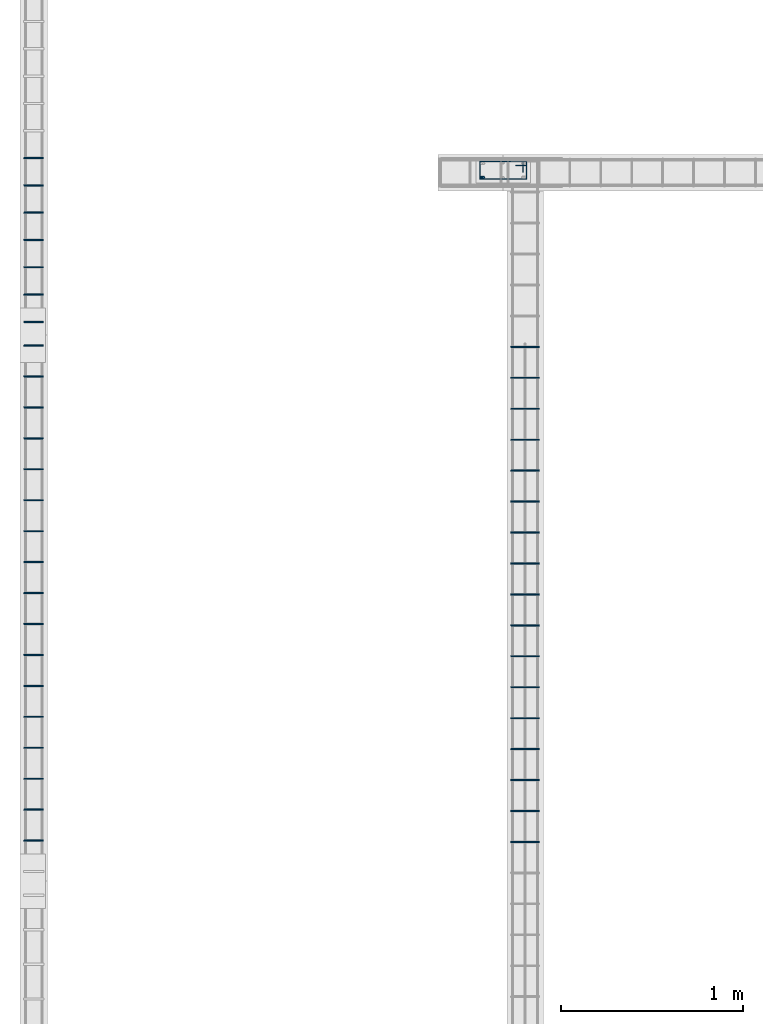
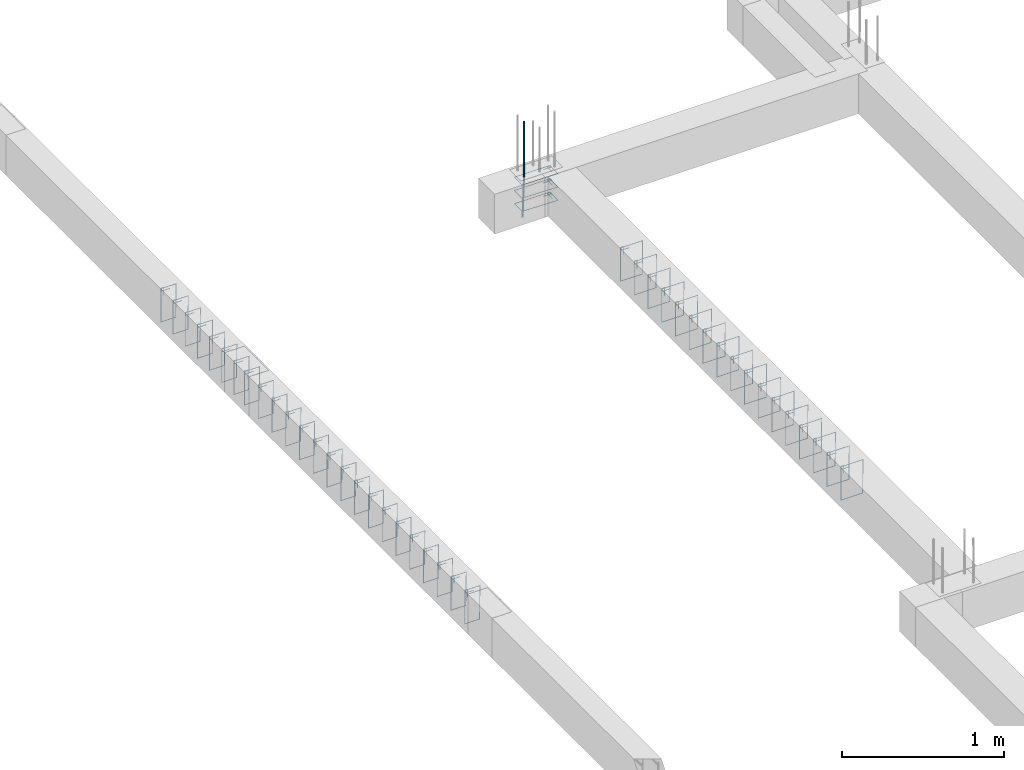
# One storey, part 115 of 150: 45 reinforcing bars.
"""IFC4 building model written with IfcOpenShell, lengths in centimetres."""

import ifcopenshell
import ifcopenshell.guid

model = None  # the IFC model being written
_history = None  # IfcOwnerHistory: only IFC2X3 demands one
_inside = {}  # id of a spatial element -> (the spatial element, [elements in it])
_under = {}  # id of a project, library or spatial element -> (it, [spatial elements below it])
_declared = {}  # id of a project -> (the project, [libraries it declares])
_typed = {}  # id of a type object -> (the type object, [elements of that type])
_made_of = {}  # id of a material, layer set ... -> (it, [elements and type objects made of it])


def new_model(schema):
    """Start an empty IFC model of exactly this schema.

    Asked for "IFC4X3", IfcOpenShell would pick the latest addendum, in which some entities
    have other attributes; the version numbers below select the first issue.
    IFC2X3 requires an IfcOwnerHistory on every rooted entity: one is made here for all.
    """
    global model, _history
    if schema == "IFC4X3":
        model = ifcopenshell.file(schema_version=(4, 3, 0, 0))
    else:
        model = ifcopenshell.file(schema=schema)
    _inside.clear()
    _under.clear()
    _declared.clear()
    _typed.clear()
    _made_of.clear()
    _history = None
    if model.schema == "IFC2X3":
        org = make("IfcOrganization", Name="unknown")
        user = make(
            "IfcPersonAndOrganization",
            ThePerson=make("IfcPerson", FamilyName="unknown"),
            TheOrganization=org,
        )
        app = make(
            "IfcApplication",
            ApplicationDeveloper=org,
            Version="unknown",
            ApplicationFullName="unknown",
            ApplicationIdentifier="unknown",
        )
        _history = make(
            "IfcOwnerHistory",
            OwningUser=user,
            OwningApplication=app,
            ChangeAction="ADDED",
            CreationDate=0,
        )
    return model


def make(cls, **values):
    """One entity of the class cls with the attributes given. An attribute that is None is left unset."""
    return model.create_entity(
        cls, **{name: value for name, value in values.items() if value is not None}
    )


def entity(cls, *values):
    """Any entity or typed value of the class cls, its attributes in the order of the schema. None: left unset."""
    e = model.create_entity(cls)
    for i, value in enumerate(values):
        if value is not None:
            e[i] = value
    return e


def rooted(cls, **values):
    """An entity with a GlobalId (a new one), such as an element, a storey or a relation."""
    return make(cls, GlobalId=ifcopenshell.guid.new(), OwnerHistory=_history, **values)


def si_unit(unit_type, name, prefix=None):
    """IfcSIUnit, for example si_unit("LENGTHUNIT", "METRE", prefix="MILLI")."""
    return make("IfcSIUnit", UnitType=unit_type, Prefix=prefix, Name=name)


def derived_unit(unit_type, elements):
    """IfcDerivedUnit: a product of units, each with its exponent."""
    return make(
        "IfcDerivedUnit",
        Elements=[
            make("IfcDerivedUnitElement", Unit=unit, Exponent=power)
            for unit, power in elements
        ],
        UnitType=unit_type,
    )


def assignment(units):
    """IfcUnitAssignment: the units of a project."""
    return None if units is None else make("IfcUnitAssignment", Units=units)


def point(xyz):
    """IfcCartesianPoint."""
    return None if xyz is None else make("IfcCartesianPoint", Coordinates=xyz)


def direction(xyz):
    """IfcDirection."""
    return None if xyz is None else make("IfcDirection", DirectionRatios=xyz)


def frame(location, z_axis=None, x_axis=None):
    """IfcAxis2Placement3D, a coordinate frame: its origin and axes. An axis left out is left unset."""
    return make(
        "IfcAxis2Placement3D",
        Location=point(location),
        Axis=direction(z_axis),
        RefDirection=direction(x_axis),
    )


def origin_with_axes():
    """The frame at (0, 0, 0) with the z axis (0, 0, 1) and the x axis (1, 0, 0) written out."""
    return frame((0.0, 0.0, 0.0), z_axis=(0.0, 0.0, 1.0), x_axis=(1.0, 0.0, 0.0))


def place(relative_to, where):
    """IfcLocalPlacement: puts the frame where relative to a parent placement (None: the world)."""
    return make(
        "IfcLocalPlacement", PlacementRelTo=relative_to, RelativePlacement=where
    )


def context(
    kind, dimensions, precision=None, world=None, true_north=None, identifier=None
):
    """IfcGeometricRepresentationContext, for example the 3D "Model" context."""
    return make(
        "IfcGeometricRepresentationContext",
        ContextIdentifier=identifier,
        ContextType=kind,
        CoordinateSpaceDimension=dimensions,
        Precision=precision,
        WorldCoordinateSystem=world,
        TrueNorth=true_north,
    )


def project(units=None, contexts=None):
    """IfcProject with its units and contexts."""
    return rooted(
        "IfcProject",
        Name="project",
        RepresentationContexts=contexts,
        UnitsInContext=assignment(units),
    )


def spatial(cls, under=None, at=None, **own):
    """A site, building, storey or space (cls), placed at a placement, below another one or the project."""
    s = rooted(cls, ObjectPlacement=at, **own)
    if under is not None:
        _under.setdefault(under.id(), (under, []))[1].append(s)
    return s


def shape(context_of_items, identifier, shape_type, items):
    """IfcShapeRepresentation: the items that make up one representation, for example the "Body"."""
    return make(
        "IfcShapeRepresentation",
        ContextOfItems=context_of_items,
        RepresentationIdentifier=identifier,
        RepresentationType=shape_type,
        Items=items,
    )


def source(mapping_origin, context_of_items, identifier, shape_type, items):
    """IfcRepresentationMap: a shape defined once, which mapped items show again and again."""
    return make(
        "IfcRepresentationMap",
        MappingOrigin=mapping_origin,
        MappedRepresentation=shape(context_of_items, identifier, shape_type, items),
    )


def transform(
    local_origin,
    x_axis=None,
    y_axis=None,
    z_axis=None,
    scale=None,
    scale2=None,
    scale3=None,
    uniform=True,
):
    """IfcCartesianTransformationOperator3D, or its non-uniform kind. x_axis, y_axis, z_axis: its Axis1, 2, 3."""
    if uniform:
        return make(
            "IfcCartesianTransformationOperator3D",
            Axis1=direction(x_axis),
            Axis2=direction(y_axis),
            LocalOrigin=point(local_origin),
            Scale=scale,
            Axis3=direction(z_axis),
        )
    return make(
        "IfcCartesianTransformationOperator3DnonUniform",
        Axis1=direction(x_axis),
        Axis2=direction(y_axis),
        LocalOrigin=point(local_origin),
        Scale=scale,
        Axis3=direction(z_axis),
        Scale2=scale2,
        Scale3=scale3,
    )


def mapped(mapping_source, mapping_target):
    """IfcMappedItem: shows the shape of a source again, moved by a transform."""
    return make(
        "IfcMappedItem", MappingSource=mapping_source, MappingTarget=mapping_target
    )


def made_of(thing, what):
    """Note that an element or type object is made of a material, layer set ...; save() writes the relation."""
    if what is not None:
        _made_of.setdefault(what.id(), (what, []))[1].append(thing)
    return thing


def element(
    cls,
    number,
    at=None,
    inside=None,
    cuts=None,
    type_object=None,
    material=None,
    context=None,
    identifier="Body",
    shape_type=None,
    held_by="IfcProductDefinitionShape",
    body=None,
    shapes=None,
    **own,
):
    """One element of the class cls, such as IfcWall. Its Tag is "e" and its number.

    at: its placement. inside: the storey or other place that contains it. cuts: it is an
    opening in that element (IfcRelVoidsElement). A single representation is given by context,
    identifier, shape_type and body (its items); several are given by shapes. held_by: the class
    of the entity that holds the representations. save() writes the other relations.
    """
    e = rooted(cls, Tag="e%d" % number, ObjectPlacement=at, **own)
    if body is not None:
        shapes = [shape(context, identifier, shape_type, body)]
    if shapes is not None:
        e.Representation = make(held_by, Representations=shapes)
    if inside is not None:
        _inside.setdefault(inside.id(), (inside, []))[1].append(e)
    if cuts is not None:
        rooted(
            "IfcRelVoidsElement", RelatingBuildingElement=cuts, RelatedOpeningElement=e
        )
    if type_object is not None:
        _typed.setdefault(type_object.id(), (type_object, []))[1].append(e)
    return made_of(e, material)


def aggregate(whole, parts):
    """IfcRelAggregates: a whole, such as a stair, and the parts it consists of."""
    return rooted("IfcRelAggregates", RelatingObject=whole, RelatedObjects=parts)


def save(model, path):
    """Write the relations noted so far, then the file.

    IfcRelAggregates (storeys below a building ...), IfcRelContainedInSpatialStructure (elements
    in a storey), IfcRelDefinesByType, IfcRelAssociatesMaterial and IfcRelDeclares: one each for
    every whole, place, type object, material and project.
    """
    for whole, parts in _under.values():
        aggregate(whole, parts)
    for where, things in _inside.values():
        rooted(
            "IfcRelContainedInSpatialStructure",
            RelatedElements=things,
            RelatingStructure=where,
        )
    for kind, things in _typed.values():
        rooted("IfcRelDefinesByType", RelatedObjects=things, RelatingType=kind)
    for what, things in _made_of.values():
        rooted("IfcRelAssociatesMaterial", RelatedObjects=things, RelatingMaterial=what)
    for by, libraries in _declared.values():
        rooted("IfcRelDeclares", RelatingContext=by, RelatedDefinitions=libraries)
    model.write(path)


model = new_model("IFC4")

# Units and contexts
model_context = context("Model", 3, precision=1e-05, world=origin_with_axes(), identifier="Body")
ifc_project = project(units=[si_unit("LENGTHUNIT", "METRE", prefix="CENTI"), si_unit("VOLUMEUNIT", "CUBIC_METRE"), si_unit("AREAUNIT", "SQUARE_METRE"), si_unit("POWERUNIT", "WATT"), si_unit("LUMINOUSFLUXUNIT", "LUMEN"), si_unit("ELECTRICCURRENTUNIT", "AMPERE"), si_unit("PRESSUREUNIT", "PASCAL", prefix="KILO"), si_unit("MASSUNIT", "GRAM", prefix="KILO"), si_unit("PLANEANGLEUNIT", "RADIAN"), derived_unit("VOLUMETRICFLOWRATEUNIT", [(si_unit("LENGTHUNIT", "METRE"), 3), (si_unit("TIMEUNIT", "SECOND"), -1)])], contexts=[model_context])

# Site, building, storey
site_placement = place(None, frame((-4000.0, 0.0, 0.0), z_axis=(0.0, 0.0, 1.0), x_axis=(1.0, 0.0, 0.0)))
site = spatial("IfcSite", under=ifc_project, at=site_placement, Name="PADRÃO")
building_placement = place(site_placement, frame((0.0, 0.0, -14.0)))
building = spatial("IfcBuilding", under=site, at=building_placement, Name="CRECHE PRÉ-ESCOLA TIPO 2")
placement = place(building_placement, origin_with_axes())
storey_placement = place(placement, frame((0.0, 0.0, 30.0), z_axis=(0.0, 0.0, 1.0), x_axis=(1.0, 0.0, 0.0)))
storey = spatial("IfcBuildingStorey", under=building, at=storey_placement, Name="VIGA BALDRAME", CompositionType="ELEMENT", Elevation=16.0)

# Reinforcing bars
shared_shape_1 = source(origin_with_axes(), model_context, "Body", "AdvancedSweptSolid", [
    entity("IfcSweptDiskSolid", entity("IfcCompositeCurve", [entity("IfcCompositeCurveSegment", "CONTINUOUS", True, entity("IfcPolyline", [entity("IfcCartesianPoint", [4.25, 21.75, 0.0]), entity("IfcCartesianPoint", [4.25, 27.75, 0.0])])), entity("IfcCompositeCurveSegment", "CONTINUOUS", True, entity("IfcPolyline", [entity("IfcCartesianPoint", [4.25, 27.75, 0.0]), entity("IfcCartesianPoint", [2.25, 27.75, 0.0])])), entity("IfcCompositeCurveSegment", "CONTINUOUS", True, entity("IfcPolyline", [entity("IfcCartesianPoint", [2.25, 27.75, 0.0]), entity("IfcCartesianPoint", [2.25, 2.25, 0.0])])), entity("IfcCompositeCurveSegment", "CONTINUOUS", True, entity("IfcPolyline", [entity("IfcCartesianPoint", [2.25, 2.25, 0.0]), entity("IfcCartesianPoint", [11.75, 2.25, 0.0])])), entity("IfcCompositeCurveSegment", "CONTINUOUS", True, entity("IfcPolyline", [entity("IfcCartesianPoint", [11.75, 2.25, 0.0]), entity("IfcCartesianPoint", [11.75, 27.75, -0.5])])), entity("IfcCompositeCurveSegment", "CONTINUOUS", True, entity("IfcPolyline", [entity("IfcCartesianPoint", [11.75, 27.75, -0.5]), entity("IfcCartesianPoint", [2.25, 27.75, -0.5])])), entity("IfcCompositeCurveSegment", "CONTINUOUS", True, entity("IfcPolyline", [entity("IfcCartesianPoint", [2.25, 27.75, -0.5]), entity("IfcCartesianPoint", [2.25, 25.75, -0.5])])), entity("IfcCompositeCurveSegment", "CONTINUOUS", True, entity("IfcPolyline", [entity("IfcCartesianPoint", [2.25, 25.75, -0.5]), entity("IfcCartesianPoint", [8.25, 25.75, -0.5])]))], False), 0.25),
])
for number, where, z_axis, x_axis, name in (
    (1, (252.0, 3992.0, -15.0), (0.0, 0.0, 1.0), (0.0, -1.0, 0.0), "P23 - Estribo"),
    (2, (252.0, 3992.0, -25.0), (0.0, 0.0, 1.0), (0.0, -1.0, 0.0), "P23 - Estribo"),
    (3, (252.0, 3992.0, -5.0), (0.0, 0.0, 1.0), (0.0, -1.0, 0.0), "P23 - Estribo"),
):
    element("IfcReinforcingBar", number, at=place(storey_placement, frame(where, z_axis=z_axis, x_axis=x_axis)), inside=storey, Name=name, BarLength=0.0, CrossSectionArea=1.9634954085e-05, NominalDiameter=0.5, PredefinedType="MAIN", context=model_context, shape_type="MappedRepresentation", body=[
        mapped(shared_shape_1, transform((0.0, 0.0, 0.0), scale=1.0)),
    ])
shared_shape_2 = source(origin_with_axes(), model_context, "Body", "AdvancedSweptSolid", [
    entity("IfcSweptDiskSolid", entity("IfcCompositeCurve", [entity("IfcCompositeCurveSegment", "CONTINUOUS", True, entity("IfcPolyline", [entity("IfcCartesianPoint", [2.0, -6.0, 0.0]), entity("IfcCartesianPoint", [2.0, 0.0, 0.0])])), entity("IfcCompositeCurveSegment", "CONTINUOUS", True, entity("IfcPolyline", [entity("IfcCartesianPoint", [2.0, 0.0, 0.0]), entity("IfcCartesianPoint", [0.0, 0.0, 0.0])])), entity("IfcCompositeCurveSegment", "CONTINUOUS", True, entity("IfcPolyline", [entity("IfcCartesianPoint", [0.0, 0.0, 0.0]), entity("IfcCartesianPoint", [0.0, -25.5, 0.0])])), entity("IfcCompositeCurveSegment", "CONTINUOUS", True, entity("IfcPolyline", [entity("IfcCartesianPoint", [0.0, -25.5, 0.0]), entity("IfcCartesianPoint", [15.5, -25.5, 0.0])])), entity("IfcCompositeCurveSegment", "CONTINUOUS", True, entity("IfcPolyline", [entity("IfcCartesianPoint", [15.5, -25.5, 0.0]), entity("IfcCartesianPoint", [15.5, 0.0, 0.5])])), entity("IfcCompositeCurveSegment", "CONTINUOUS", True, entity("IfcPolyline", [entity("IfcCartesianPoint", [15.5, 0.0, 0.5]), entity("IfcCartesianPoint", [0.0, 0.0, 0.5])])), entity("IfcCompositeCurveSegment", "CONTINUOUS", True, entity("IfcPolyline", [entity("IfcCartesianPoint", [0.0, 0.0, 0.5]), entity("IfcCartesianPoint", [0.0, -2.0, 0.5])])), entity("IfcCompositeCurveSegment", "CONTINUOUS", True, entity("IfcPolyline", [entity("IfcCartesianPoint", [0.0, -2.0, 0.5]), entity("IfcCartesianPoint", [6.0, -2.0, 0.5])]))], False), 0.25),
])
for number, where, z_axis, x_axis, name in (
    (4, (271.25, 3854.25, -2.25), (0.0, -1.0, 0.0), (1.0, 0.0, 0.0), "V165 - Estribo"),
    (5, (271.25, 3616.25, -2.25), (0.0, -1.0, 0.0), (1.0, 0.0, 0.0), "V165 - Estribo"),
    (6, (271.25, 3633.25, -2.25), (0.0, -1.0, 0.0), (1.0, 0.0, 0.0), "V165 - Estribo"),
    (7, (271.25, 3650.25, -2.25), (0.0, -1.0, 0.0), (1.0, 0.0, 0.0), "V165 - Estribo"),
    (8, (271.25, 3667.25, -2.25), (0.0, -1.0, 0.0), (1.0, 0.0, 0.0), "V165 - Estribo"),
    (9, (271.25, 3684.25, -2.25), (0.0, -1.0, 0.0), (1.0, 0.0, 0.0), "V165 - Estribo"),
    (10, (271.25, 3701.25, -2.25), (0.0, -1.0, 0.0), (1.0, 0.0, 0.0), "V165 - Estribo"),
    (11, (271.25, 3718.25, -2.25), (0.0, -1.0, 0.0), (1.0, 0.0, 0.0), "V165 - Estribo"),
    (12, (271.25, 3735.25, -2.25), (0.0, -1.0, 0.0), (1.0, 0.0, 0.0), "V165 - Estribo"),
    (13, (271.25, 3752.25, -2.25), (0.0, -1.0, 0.0), (1.0, 0.0, 0.0), "V165 - Estribo"),
    (14, (271.25, 3769.25, -2.25), (0.0, -1.0, 0.0), (1.0, 0.0, 0.0), "V165 - Estribo"),
    (15, (271.25, 3786.25, -2.25), (0.0, -1.0, 0.0), (1.0, 0.0, 0.0), "V165 - Estribo"),
    (16, (271.25, 3803.25, -2.25), (0.0, -1.0, 0.0), (1.0, 0.0, 0.0), "V165 - Estribo"),
    (17, (271.25, 3820.25, -2.25), (0.0, -1.0, 0.0), (1.0, 0.0, 0.0), "V165 - Estribo"),
    (18, (271.25, 3888.25, -2.25), (0.0, -1.0, 0.0), (1.0, 0.0, 0.0), "V165 - Estribo"),
    (19, (271.25, 3871.25, -2.25), (0.0, -1.0, 0.0), (1.0, 0.0, 0.0), "V165 - Estribo"),
    (20, (271.25, 3837.25, -2.25), (0.0, -1.0, 0.0), (1.0, 0.0, 0.0), "V165 - Estribo"),
):
    element("IfcReinforcingBar", number, at=place(storey_placement, frame(where, z_axis=z_axis, x_axis=x_axis)), inside=storey, Name=name, BarLength=0.0, CrossSectionArea=1.9634954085e-05, NominalDiameter=0.5, PredefinedType="MAIN", context=model_context, shape_type="MappedRepresentation", body=[
        mapped(shared_shape_2, transform((0.0, 0.0, 0.0), scale=1.0)),
    ])
shared_shape_3 = source(origin_with_axes(), model_context, "Body", "AdvancedSweptSolid", [
    entity("IfcSweptDiskSolid", entity("IfcCompositeCurve", [entity("IfcCompositeCurveSegment", "CONTINUOUS", True, entity("IfcPolyline", [entity("IfcCartesianPoint", [2.0, -6.0, 0.0]), entity("IfcCartesianPoint", [2.0, 0.0, 0.0])])), entity("IfcCompositeCurveSegment", "CONTINUOUS", True, entity("IfcPolyline", [entity("IfcCartesianPoint", [2.0, 0.0, 0.0]), entity("IfcCartesianPoint", [0.0, 0.0, 0.0])])), entity("IfcCompositeCurveSegment", "CONTINUOUS", True, entity("IfcPolyline", [entity("IfcCartesianPoint", [0.0, 0.0, 0.0]), entity("IfcCartesianPoint", [0.0, -25.5, 0.0])])), entity("IfcCompositeCurveSegment", "CONTINUOUS", True, entity("IfcPolyline", [entity("IfcCartesianPoint", [0.0, -25.5, 0.0]), entity("IfcCartesianPoint", [10.5, -25.5, 0.0])])), entity("IfcCompositeCurveSegment", "CONTINUOUS", True, entity("IfcPolyline", [entity("IfcCartesianPoint", [10.5, -25.5, 0.0]), entity("IfcCartesianPoint", [10.5, 0.0, 0.5])])), entity("IfcCompositeCurveSegment", "CONTINUOUS", True, entity("IfcPolyline", [entity("IfcCartesianPoint", [10.5, 0.0, 0.5]), entity("IfcCartesianPoint", [0.0, 0.0, 0.5])])), entity("IfcCompositeCurveSegment", "CONTINUOUS", True, entity("IfcPolyline", [entity("IfcCartesianPoint", [0.0, 0.0, 0.5]), entity("IfcCartesianPoint", [0.0, -2.0, 0.5])])), entity("IfcCompositeCurveSegment", "CONTINUOUS", True, entity("IfcPolyline", [entity("IfcCartesianPoint", [0.0, -2.0, 0.5]), entity("IfcCartesianPoint", [6.0, -2.0, 0.5])]))], False), 0.25),
])
for number, where, z_axis, x_axis, name in (
    (21, (3.75, 3617.0, -2.25), (0.0, -1.0, 0.0), (1.0, 0.0, 0.0), "V159 - Estribo"),
    (22, (3.75, 3634.0, -2.25), (0.0, -1.0, 0.0), (1.0, 0.0, 0.0), "V159 - Estribo"),
    (23, (3.75, 3651.0, -2.25), (0.0, -1.0, 0.0), (1.0, 0.0, 0.0), "V159 - Estribo"),
    (24, (3.75, 3668.0, -2.25), (0.0, -1.0, 0.0), (1.0, 0.0, 0.0), "V159 - Estribo"),
    (25, (3.75, 3685.0, -2.25), (0.0, -1.0, 0.0), (1.0, 0.0, 0.0), "V159 - Estribo"),
    (26, (3.75, 3702.0, -2.25), (0.0, -1.0, 0.0), (1.0, 0.0, 0.0), "V159 - Estribo"),
    (27, (3.75, 3719.0, -2.25), (0.0, -1.0, 0.0), (1.0, 0.0, 0.0), "V159 - Estribo"),
    (28, (3.75, 3736.0, -2.25), (0.0, -1.0, 0.0), (1.0, 0.0, 0.0), "V159 - Estribo"),
    (29, (3.75, 3753.0, -2.25), (0.0, -1.0, 0.0), (1.0, 0.0, 0.0), "V159 - Estribo"),
    (30, (3.75, 3770.0, -2.25), (0.0, -1.0, 0.0), (1.0, 0.0, 0.0), "V159 - Estribo"),
    (31, (3.75, 3787.0, -2.25), (0.0, -1.0, 0.0), (1.0, 0.0, 0.0), "V159 - Estribo"),
    (32, (3.75, 3804.0, -2.25), (0.0, -1.0, 0.0), (1.0, 0.0, 0.0), "V159 - Estribo"),
    (33, (3.75, 3821.0, -2.25), (0.0, -1.0, 0.0), (1.0, 0.0, 0.0), "V159 - Estribo"),
    (34, (3.75, 3889.0, -2.25), (0.0, -1.0, 0.0), (1.0, 0.0, 0.0), "V159 - Estribo"),
    (35, (3.75, 3872.0, -2.25), (0.0, -1.0, 0.0), (1.0, 0.0, 0.0), "V159 - Estribo"),
    (36, (3.75, 3855.0, -2.25), (0.0, -1.0, 0.0), (1.0, 0.0, 0.0), "V159 - Estribo"),
    (37, (3.75, 3838.0, -2.25), (0.0, -1.0, 0.0), (1.0, 0.0, 0.0), "V159 - Estribo"),
):
    element("IfcReinforcingBar", number, at=place(storey_placement, frame(where, z_axis=z_axis, x_axis=x_axis)), inside=storey, Name=name, BarLength=0.0, CrossSectionArea=1.9634954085e-05, NominalDiameter=0.5, PredefinedType="MAIN", context=model_context, shape_type="MappedRepresentation", body=[
        mapped(shared_shape_3, transform((0.0, 0.0, 0.0), scale=1.0)),
    ])
shared_shape_4 = source(origin_with_axes(), model_context, "Body", "AdvancedSweptSolid", [
    entity("IfcSweptDiskSolid", entity("IfcCompositeCurve", [entity("IfcCompositeCurveSegment", "CONTINUOUS", True, entity("IfcPolyline", [entity("IfcCartesianPoint", [2.0, -6.0, 0.0]), entity("IfcCartesianPoint", [2.0, 0.0, 0.0])])), entity("IfcCompositeCurveSegment", "CONTINUOUS", True, entity("IfcPolyline", [entity("IfcCartesianPoint", [2.0, 0.0, 0.0]), entity("IfcCartesianPoint", [0.0, 0.0, 0.0])])), entity("IfcCompositeCurveSegment", "CONTINUOUS", True, entity("IfcPolyline", [entity("IfcCartesianPoint", [0.0, 0.0, 0.0]), entity("IfcCartesianPoint", [0.0, -25.5, 0.0])])), entity("IfcCompositeCurveSegment", "CONTINUOUS", True, entity("IfcPolyline", [entity("IfcCartesianPoint", [0.0, -25.5, 0.0]), entity("IfcCartesianPoint", [10.5, -25.5, 0.0])])), entity("IfcCompositeCurveSegment", "CONTINUOUS", True, entity("IfcPolyline", [entity("IfcCartesianPoint", [10.5, -25.5, 0.0]), entity("IfcCartesianPoint", [10.5, 0.0, 0.5])])), entity("IfcCompositeCurveSegment", "CONTINUOUS", True, entity("IfcPolyline", [entity("IfcCartesianPoint", [10.5, 0.0, 0.5]), entity("IfcCartesianPoint", [0.0, 0.0, 0.5])])), entity("IfcCompositeCurveSegment", "CONTINUOUS", True, entity("IfcPolyline", [entity("IfcCartesianPoint", [0.0, 0.0, 0.5]), entity("IfcCartesianPoint", [0.0, -2.0, 0.5])])), entity("IfcCompositeCurveSegment", "CONTINUOUS", True, entity("IfcPolyline", [entity("IfcCartesianPoint", [0.0, -2.0, 0.5]), entity("IfcCartesianPoint", [6.0, -2.0, 0.5])]))], False), 0.25),
])
for number, where, z_axis, x_axis, name in (
    (38, (3.75, 3992.0, -2.25), (0.0, -1.0, 0.0), (1.0, 0.0, 0.0), "V159 - Estribo"),
    (39, (3.75, 3977.0, -2.25), (0.0, -1.0, 0.0), (1.0, 0.0, 0.0), "V159 - Estribo"),
    (40, (3.75, 3962.0, -2.25), (0.0, -1.0, 0.0), (1.0, 0.0, 0.0), "V159 - Estribo"),
    (41, (3.75, 3947.0, -2.25), (0.0, -1.0, 0.0), (1.0, 0.0, 0.0), "V159 - Estribo"),
    (42, (3.75, 3932.0, -2.25), (0.0, -1.0, 0.0), (1.0, 0.0, 0.0), "V159 - Estribo"),
    (43, (3.75, 3917.0, -2.25), (0.0, -1.0, 0.0), (1.0, 0.0, 0.0), "V159 - Estribo"),
    (44, (3.75, 3902.0, -2.25), (0.0, -1.0, 0.0), (1.0, 0.0, 0.0), "V159 - Estribo"),
):
    element("IfcReinforcingBar", number, at=place(storey_placement, frame(where, z_axis=z_axis, x_axis=x_axis)), inside=storey, Name=name, BarLength=0.0, CrossSectionArea=1.9634954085e-05, NominalDiameter=0.5, PredefinedType="MAIN", context=model_context, shape_type="MappedRepresentation", body=[
        mapped(shared_shape_4, transform((0.0, 0.0, 0.0), scale=1.0)),
    ])
reinforcing_bar_placement = place(storey_placement, frame((255.625173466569, 3981.125, 41.6966251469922), z_axis=(0.0, 0.0, 1.0), x_axis=(1.0, 0.0, 0.0)))
element("IfcReinforcingBar", 45, at=reinforcing_bar_placement, inside=storey, Name="P23 - Longitudinal", BarLength=0.0, CrossSectionArea=0.000122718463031, NominalDiameter=1.25, PredefinedType="MAIN", context=model_context, shape_type="AdvancedSweptSolid", body=[
    entity("IfcSweptDiskSolid", entity("IfcCompositeCurve", [entity("IfcCompositeCurveSegment", "CONTINUOUS", True, entity("IfcPolyline", [entity("IfcCartesianPoint", [-0.500173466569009, 0.0, -71.6966251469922]), entity("IfcCartesianPoint", [0.499826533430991, 0.0, -41.6966251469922])])), entity("IfcCompositeCurveSegment", "CONTINUOUS", True, entity("IfcPolyline", [entity("IfcCartesianPoint", [0.499826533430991, 0.0, -41.6966251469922]), entity("IfcCartesianPoint", [0.499826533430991, 0.0, 0.0])]))], False), 0.625),
])

save(model, "model.ifc")
